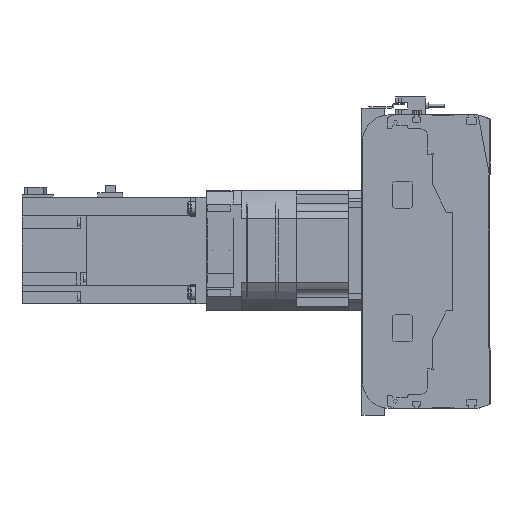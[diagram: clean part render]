
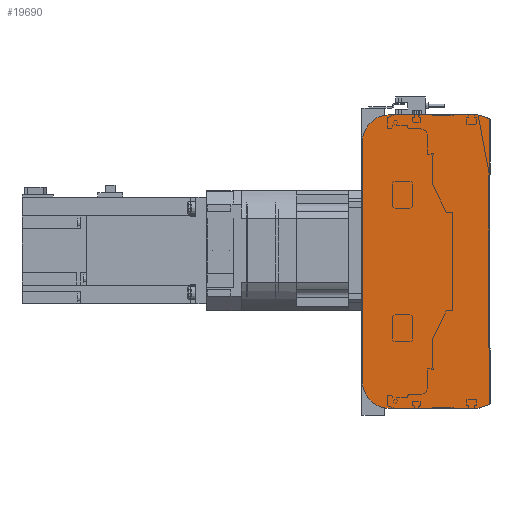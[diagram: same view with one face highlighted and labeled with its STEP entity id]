
A CAD part, left-side view. The second image highlights one B-rep face of the part: STEP entity #19690.
In plain terms, the highlighted planar face has unit normal (-1, 0, 0).
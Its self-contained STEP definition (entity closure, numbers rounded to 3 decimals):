
#1132=CIRCLE('',#21447,20.);
#1133=CIRCLE('',#21450,20.);
#4834=ORIENTED_EDGE('',*,*,#8520,.F.);
#4835=ORIENTED_EDGE('',*,*,#8562,.F.);
#4836=ORIENTED_EDGE('',*,*,#8560,.F.);
#4837=ORIENTED_EDGE('',*,*,#8558,.F.);
#4838=ORIENTED_EDGE('',*,*,#8547,.F.);
#4839=ORIENTED_EDGE('',*,*,#8538,.F.);
#4840=ORIENTED_EDGE('',*,*,#8534,.F.);
#4841=ORIENTED_EDGE('',*,*,#8531,.F.);
#8520=EDGE_CURVE('',#10707,#10708,#12475,.T.);
#8531=EDGE_CURVE('',#10708,#10715,#12486,.T.);
#8534=EDGE_CURVE('',#10715,#10717,#12489,.T.);
#8538=EDGE_CURVE('',#10717,#10718,#12493,.T.);
#8547=EDGE_CURVE('',#10718,#10724,#12502,.T.);
#8558=EDGE_CURVE('',#10724,#10731,#1132,.T.);
#8560=EDGE_CURVE('',#10731,#10732,#12514,.T.);
#8562=EDGE_CURVE('',#10732,#10707,#1133,.T.);
#10707=VERTEX_POINT('',#32677);
#10708=VERTEX_POINT('',#32679);
#10715=VERTEX_POINT('',#32698);
#10717=VERTEX_POINT('',#32704);
#10718=VERTEX_POINT('',#32710);
#10724=VERTEX_POINT('',#32726);
#10731=VERTEX_POINT('',#32745);
#10732=VERTEX_POINT('',#32749);
#12475=LINE('',#32678,#14070);
#12486=LINE('',#32697,#14081);
#12489=LINE('',#32703,#14084);
#12493=LINE('',#32709,#14088);
#12502=LINE('',#32725,#14097);
#12514=LINE('',#32748,#14109);
#14070=VECTOR('',#25930,1000.);
#14081=VECTOR('',#25943,1000.);
#14084=VECTOR('',#25948,1000.);
#14088=VECTOR('',#25954,1000.);
#14097=VECTOR('',#25965,1000.);
#14109=VECTOR('',#25983,1000.);
#15494=EDGE_LOOP('',(#4834,#4835,#4836,#4837,#4838,#4839,#4840,#4841));
#17410=FACE_BOUND('',#15494,.T.);
#18765=PLANE('',#21451);
#19690=ADVANCED_FACE('',(#17410),#18765,.F.);
#21447=AXIS2_PLACEMENT_3D('',#32744,#25978,#25979);
#21450=AXIS2_PLACEMENT_3D('',#32752,#25987,#25988);
#21451=AXIS2_PLACEMENT_3D('',#32753,#25989,#25990);
#25930=DIRECTION('',(0.,-1.,0.));
#25943=DIRECTION('',(0.,-0.945,-0.328));
#25948=DIRECTION('',(0.,0.,-1.));
#25954=DIRECTION('',(0.,0.945,-0.328));
#25965=DIRECTION('',(0.,1.,0.));
#25978=DIRECTION('',(1.,0.,0.));
#25979=DIRECTION('',(0.,0.,-1.));
#25983=DIRECTION('',(0.,0.,1.));
#25987=DIRECTION('',(1.,0.,0.));
#25988=DIRECTION('',(0.,0.,-1.));
#25989=DIRECTION('',(1.,0.,0.));
#25990=DIRECTION('',(0.,0.,-1.));
#32677=CARTESIAN_POINT('',(0.,75.5,110.));
#32678=CARTESIAN_POINT('',(0.,75.5,110.));
#32679=CARTESIAN_POINT('',(0.,9.,110.));
#32697=CARTESIAN_POINT('',(0.,9.,110.));
#32698=CARTESIAN_POINT('',(0.,0.5,107.05));
#32703=CARTESIAN_POINT('',(0.,0.5,107.05));
#32704=CARTESIAN_POINT('',(0.,0.5,-107.05));
#32709=CARTESIAN_POINT('',(0.,0.5,-107.05));
#32710=CARTESIAN_POINT('',(0.,9.,-110.));
#32725=CARTESIAN_POINT('',(0.,9.,-110.));
#32726=CARTESIAN_POINT('',(0.,75.5,-110.));
#32744=CARTESIAN_POINT('',(0.,75.5,-90.));
#32745=CARTESIAN_POINT('',(0.,95.5,-90.));
#32748=CARTESIAN_POINT('',(0.,95.5,-90.));
#32749=CARTESIAN_POINT('',(0.,95.5,90.));
#32752=CARTESIAN_POINT('',(0.,75.5,90.));
#32753=CARTESIAN_POINT('',(0.,75.5,-90.));
